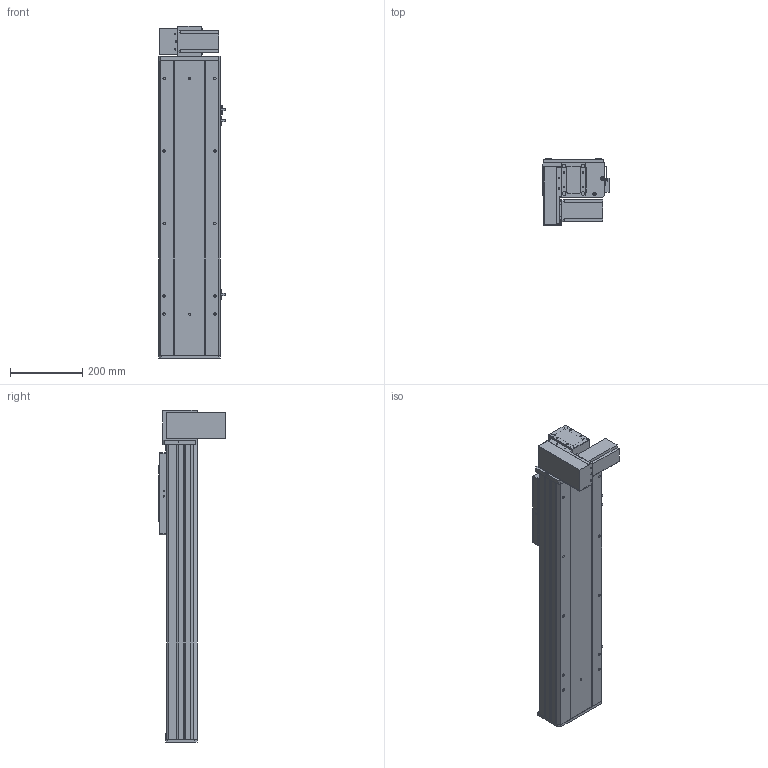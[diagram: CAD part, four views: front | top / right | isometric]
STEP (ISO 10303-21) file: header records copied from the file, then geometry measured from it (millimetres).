
FILE_DESCRIPTION (( 'STEP AP203' ), '1' );
FILE_NAME ('Y170CB-D105-S500-BM-P400W.STEP', '2020-02-20T06:13:45', ( '微软用户' ), ( '微软中国' ), 'SwSTEP 2.0', 'SolidWorks 2017', '' );
FILE_SCHEMA (( 'CONFIG_CONTROL_DESIGN' ));
Length unit declared in the file: millimetre
Products named in the file (18): 17B-耜蚾蟀諉啣----; 70C--詩湍揤踡え-; 00B-俋欶BM--163; 70CB--耜裔; 70B喘謫眊----; 70C-雄赽釱-奻-; B-源倛裔啣; Y170CB-D105-S500-BM-P400W; 0C--雄赽釱俋欶-170; 0B-萇儂楊擘啣; 70CB-詩湍--; san松下电机400不带刹车----; Y100-135俋离換覜ん--; 70CB-掛极-; Y170CB-陔俋离換覜結え---; --70CB --喘謫眊楊擘啣-; Y1埴倛裔; 70CB-耜裔啣-
Assembly tree (21 placements, depth 2):
  Y170CB-D105-S500-BM-P400W
    B-源倛裔啣
    0B-萇儂楊擘啣
    san松下电机400不带刹车----
    70CB-掛极-
    --70CB --喘謫眊楊擘啣-
    70CB-耜裔啣-  x2
    70C--詩湍揤踡え-  x2
    70CB--耜裔
    70C-雄赽釱-奻-
    0C--雄赽釱俋欶-170
    70CB-詩湍--
    Y100-135俋离換覜ん--  x3
    Y170CB-陔俋离換覜結え---
    Y1埴倛裔
    17B-耜蚾蟀諉啣----
    00B-俋欶BM--163
    70B喘謫眊----
Bounding box: 183.5 x 184 x 916 mm (x, y, z)
Volume: 4570245 mm3; surface area: 1627194 mm2
Topology: 21 solids, 21 shells, 991 faces, 2645 edges, 1754 vertices
Faces by surface type: cylinder 505, plane 462, cone 24
Entity records: 31452 total; most frequent: CARTESIAN_POINT 5736, DIRECTION 5114, ORIENTED_EDGE 4772, EDGE_CURVE 2386, AXIS2_PLACEMENT_3D 1868, VERTEX_POINT 1584, LINE 1378, VECTOR 1378
